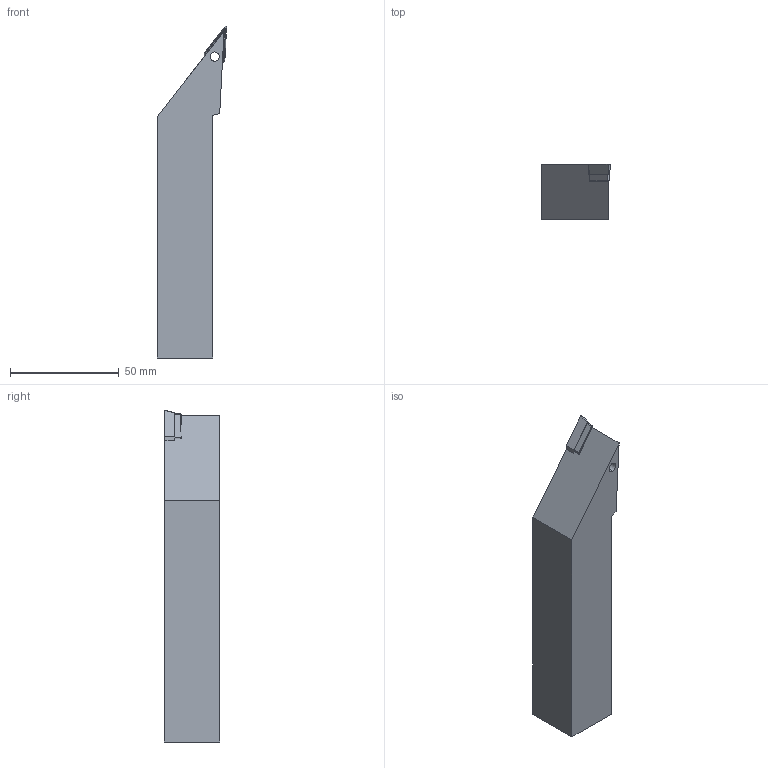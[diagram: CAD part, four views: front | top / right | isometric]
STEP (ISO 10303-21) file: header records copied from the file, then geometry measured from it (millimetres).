
FILE_DESCRIPTION (( 'STEP AP203' ), '1' );
FILE_NAME ('SVJBR16-3D-HAAS.STEP', '2022-10-05T03:48:46', ( '' ), ( '' ), 'SwSTEP 2.0', 'SolidWorks 2015', '' );
FILE_SCHEMA (( 'CONFIG_CONTROL_DESIGN' ));
Length unit declared in the file: millimetre
Products named in the file (5): SV32S_ル遽; SVJBR16-3B-HAAS - 賅筐葭_ル遽; VBGT160404_ル遽; SVJBR16-3B-HAAS - 賅筐葭; SVJBR16-3D-HAAS
Assembly tree (4 placements, depth 3):
  SVJBR16-3D-HAAS
    SVJBR16-3B-HAAS - 賅筐葭
      SVJBR16-3B-HAAS - 賅筐葭_ル遽
      SV32S_ル遽
      VBGT160404_ル遽
Bounding box: 31.8 x 25.4 x 152.52 mm (x, y, z)
Volume: 85272.4 mm3; surface area: 16561.7 mm2
Topology: 3 solids, 3 shells, 54 faces, 129 edges, 82 vertices
Faces by surface type: plane 33, cylinder 14, cone 7
Entity records: 2085 total; most frequent: CARTESIAN_POINT 291, DIRECTION 276, ORIENTED_EDGE 258, EDGE_CURVE 129, VECTOR 94, LINE 94, AXIS2_PLACEMENT_3D 91, VERTEX_POINT 82
